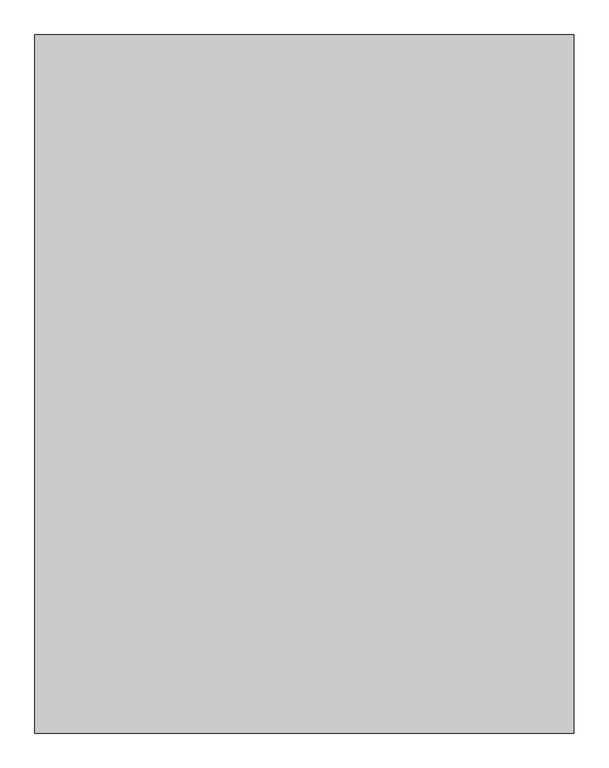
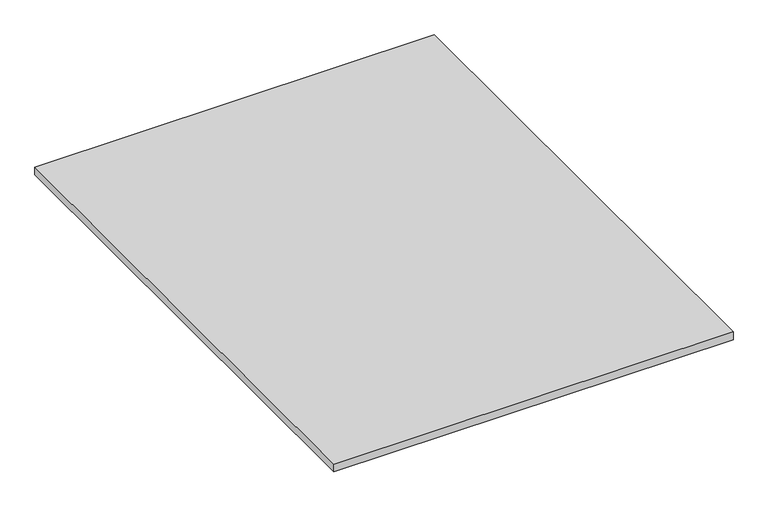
"""IFC4 building model written with IfcOpenShell, lengths in millimetres: proxy geometry, FOUNDATION^PO5_WALL HUNG TACKBOARD-PARTS SOLID."""

import ifcopenshell
import ifcopenshell.guid

model = None  # the IFC model being written
_history = None  # IfcOwnerHistory: only IFC2X3 demands one
_inside = {}  # id of a spatial element -> (the spatial element, [elements in it])
_under = {}  # id of a project, library or spatial element -> (it, [spatial elements below it])
_declared = {}  # id of a project -> (the project, [libraries it declares])
_typed = {}  # id of a type object -> (the type object, [elements of that type])
_made_of = {}  # id of a material, layer set ... -> (it, [elements and type objects made of it])


def new_model(schema):
    """Start an empty IFC model of exactly this schema.

    Asked for "IFC4X3", IfcOpenShell would pick the latest addendum, in which some entities
    have other attributes; the version numbers below select the first issue.
    IFC2X3 requires an IfcOwnerHistory on every rooted entity: one is made here for all.
    """
    global model, _history
    if schema == "IFC4X3":
        model = ifcopenshell.file(schema_version=(4, 3, 0, 0))
    else:
        model = ifcopenshell.file(schema=schema)
    _inside.clear()
    _under.clear()
    _declared.clear()
    _typed.clear()
    _made_of.clear()
    _history = None
    if model.schema == "IFC2X3":
        org = make("IfcOrganization", Name="unknown")
        user = make(
            "IfcPersonAndOrganization",
            ThePerson=make("IfcPerson", FamilyName="unknown"),
            TheOrganization=org,
        )
        app = make(
            "IfcApplication",
            ApplicationDeveloper=org,
            Version="unknown",
            ApplicationFullName="unknown",
            ApplicationIdentifier="unknown",
        )
        _history = make(
            "IfcOwnerHistory",
            OwningUser=user,
            OwningApplication=app,
            ChangeAction="ADDED",
            CreationDate=0,
        )
    return model


def make(cls, **values):
    """One entity of the class cls with the attributes given. An attribute that is None is left unset."""
    return model.create_entity(
        cls, **{name: value for name, value in values.items() if value is not None}
    )


def rooted(cls, **values):
    """An entity with a GlobalId (a new one), such as an element, a storey or a relation."""
    return make(cls, GlobalId=ifcopenshell.guid.new(), OwnerHistory=_history, **values)


def si_unit(unit_type, name, prefix=None):
    """IfcSIUnit, for example si_unit("LENGTHUNIT", "METRE", prefix="MILLI")."""
    return make("IfcSIUnit", UnitType=unit_type, Prefix=prefix, Name=name)


def assignment(units):
    """IfcUnitAssignment: the units of a project."""
    return None if units is None else make("IfcUnitAssignment", Units=units)


def point(xyz):
    """IfcCartesianPoint."""
    return None if xyz is None else make("IfcCartesianPoint", Coordinates=xyz)


def direction(xyz):
    """IfcDirection."""
    return None if xyz is None else make("IfcDirection", DirectionRatios=xyz)


def frame(location, z_axis=None, x_axis=None):
    """IfcAxis2Placement3D, a coordinate frame: its origin and axes. An axis left out is left unset."""
    return make(
        "IfcAxis2Placement3D",
        Location=point(location),
        Axis=direction(z_axis),
        RefDirection=direction(x_axis),
    )


def origin():
    """The frame at (0, 0, 0) with its axes left unset."""
    return frame((0.0, 0.0, 0.0))


def origin_with_axes():
    """The frame at (0, 0, 0) with the z axis (0, 0, 1) and the x axis (1, 0, 0) written out."""
    return frame((0.0, 0.0, 0.0), z_axis=(0.0, 0.0, 1.0), x_axis=(1.0, 0.0, 0.0))


def place(relative_to, where):
    """IfcLocalPlacement: puts the frame where relative to a parent placement (None: the world)."""
    return make(
        "IfcLocalPlacement", PlacementRelTo=relative_to, RelativePlacement=where
    )


def context(
    kind, dimensions, precision=None, world=None, true_north=None, identifier=None
):
    """IfcGeometricRepresentationContext, for example the 3D "Model" context."""
    return make(
        "IfcGeometricRepresentationContext",
        ContextIdentifier=identifier,
        ContextType=kind,
        CoordinateSpaceDimension=dimensions,
        Precision=precision,
        WorldCoordinateSystem=world,
        TrueNorth=true_north,
    )


def project(units=None, contexts=None):
    """IfcProject with its units and contexts."""
    return rooted(
        "IfcProject",
        Name="project",
        RepresentationContexts=contexts,
        UnitsInContext=assignment(units),
    )


def spatial(cls, under=None, at=None, **own):
    """A site, building, storey or space (cls), placed at a placement, below another one or the project."""
    s = rooted(cls, ObjectPlacement=at, **own)
    if under is not None:
        _under.setdefault(under.id(), (under, []))[1].append(s)
    return s


def polyline(points):
    """IfcPolyline through the points."""
    return make("IfcPolyline", Points=[point(p) for p in points])


def outline(outer, holes=None, kind="AREA"):
    """IfcArbitraryClosedProfileDef: a profile drawn as a closed curve; with holes, ...WithVoids."""
    if holes is None:
        return make("IfcArbitraryClosedProfileDef", ProfileType=kind, OuterCurve=outer)
    return make(
        "IfcArbitraryProfileDefWithVoids",
        ProfileType=kind,
        OuterCurve=outer,
        InnerCurves=holes,
    )


def extrude(swept, where, along, depth):
    """IfcExtrudedAreaSolid: the profile swept, set in the frame where, extruded along a direction by depth."""
    return make(
        "IfcExtrudedAreaSolid",
        SweptArea=swept,
        Position=where,
        ExtrudedDirection=direction(along),
        Depth=depth,
    )


def shape(context_of_items, identifier, shape_type, items):
    """IfcShapeRepresentation: the items that make up one representation, for example the "Body"."""
    return make(
        "IfcShapeRepresentation",
        ContextOfItems=context_of_items,
        RepresentationIdentifier=identifier,
        RepresentationType=shape_type,
        Items=items,
    )


def source(mapping_origin, context_of_items, identifier, shape_type, items):
    """IfcRepresentationMap: a shape defined once, which mapped items show again and again."""
    return make(
        "IfcRepresentationMap",
        MappingOrigin=mapping_origin,
        MappedRepresentation=shape(context_of_items, identifier, shape_type, items),
    )


def transform(
    local_origin,
    x_axis=None,
    y_axis=None,
    z_axis=None,
    scale=None,
    scale2=None,
    scale3=None,
    uniform=True,
):
    """IfcCartesianTransformationOperator3D, or its non-uniform kind. x_axis, y_axis, z_axis: its Axis1, 2, 3."""
    if uniform:
        return make(
            "IfcCartesianTransformationOperator3D",
            Axis1=direction(x_axis),
            Axis2=direction(y_axis),
            LocalOrigin=point(local_origin),
            Scale=scale,
            Axis3=direction(z_axis),
        )
    return make(
        "IfcCartesianTransformationOperator3DnonUniform",
        Axis1=direction(x_axis),
        Axis2=direction(y_axis),
        LocalOrigin=point(local_origin),
        Scale=scale,
        Axis3=direction(z_axis),
        Scale2=scale2,
        Scale3=scale3,
    )


def mapped(mapping_source, mapping_target):
    """IfcMappedItem: shows the shape of a source again, moved by a transform."""
    return make(
        "IfcMappedItem", MappingSource=mapping_source, MappingTarget=mapping_target
    )


def made_of(thing, what):
    """Note that an element or type object is made of a material, layer set ...; save() writes the relation."""
    if what is not None:
        _made_of.setdefault(what.id(), (what, []))[1].append(thing)
    return thing


def element(
    cls,
    number,
    at=None,
    inside=None,
    cuts=None,
    type_object=None,
    material=None,
    context=None,
    identifier="Body",
    shape_type=None,
    held_by="IfcProductDefinitionShape",
    body=None,
    shapes=None,
    **own,
):
    """One element of the class cls, such as IfcWall. Its Tag is "e" and its number.

    at: its placement. inside: the storey or other place that contains it. cuts: it is an
    opening in that element (IfcRelVoidsElement). A single representation is given by context,
    identifier, shape_type and body (its items); several are given by shapes. held_by: the class
    of the entity that holds the representations. save() writes the other relations.
    """
    e = rooted(cls, Tag="e%d" % number, ObjectPlacement=at, **own)
    if body is not None:
        shapes = [shape(context, identifier, shape_type, body)]
    if shapes is not None:
        e.Representation = make(held_by, Representations=shapes)
    if inside is not None:
        _inside.setdefault(inside.id(), (inside, []))[1].append(e)
    if cuts is not None:
        rooted(
            "IfcRelVoidsElement", RelatingBuildingElement=cuts, RelatedOpeningElement=e
        )
    if type_object is not None:
        _typed.setdefault(type_object.id(), (type_object, []))[1].append(e)
    return made_of(e, material)


def aggregate(whole, parts):
    """IfcRelAggregates: a whole, such as a stair, and the parts it consists of."""
    return rooted("IfcRelAggregates", RelatingObject=whole, RelatedObjects=parts)


def save(model, path):
    """Write the relations noted so far, then the file.

    IfcRelAggregates (storeys below a building ...), IfcRelContainedInSpatialStructure (elements
    in a storey), IfcRelDefinesByType, IfcRelAssociatesMaterial and IfcRelDeclares: one each for
    every whole, place, type object, material and project.
    """
    for whole, parts in _under.values():
        aggregate(whole, parts)
    for where, things in _inside.values():
        rooted(
            "IfcRelContainedInSpatialStructure",
            RelatedElements=things,
            RelatingStructure=where,
        )
    for kind, things in _typed.values():
        rooted("IfcRelDefinesByType", RelatedObjects=things, RelatingType=kind)
    for what, things in _made_of.values():
        rooted("IfcRelAssociatesMaterial", RelatedObjects=things, RelatingMaterial=what)
    for by, libraries in _declared.values():
        rooted("IfcRelDeclares", RelatingContext=by, RelatedDefinitions=libraries)
    model.write(path)


def generic_models_cede4d66(model_context):
    return source(origin(), model_context, "Body", "SweptSolid", [
        extrude(outline(polyline([(919.95625, 1192.2125), (919.95625, 0.0), (0.0, 0.0), (0.0, 1192.2125), (919.95625, 1192.2125)])), origin_with_axes(), (0.0, 0.0, 1.0), 19.05),
    ])


if __name__ == "__main__":
    model = new_model("IFC4")
    model_context = context("Model", 3, world=origin())
    ifc_project = project(units=[si_unit("LENGTHUNIT", "METRE", prefix="MILLI")], contexts=[model_context])
    site = spatial("IfcSite", under=ifc_project)
    building = spatial("IfcBuilding", under=site)
    placement = place(None, origin())
    generic_models_shape = generic_models_cede4d66(model_context)
    element("IfcBuildingElementProxy", 1, Name="FOUNDATION^PO5_WALL HUNG TACKBOARD-PARTS SOLID", ObjectType="FOUNDATION^PO5_WALL HUNG TACKBOARD-PARTS SOLID", at=placement, inside=building, context=model_context, shape_type="MappedRepresentation", body=[
        mapped(generic_models_shape, transform((0.0, 0.0, 0.0), x_axis=(1.0, 0.0, 0.0), y_axis=(0.0, 1.0, 0.0), z_axis=(0.0, 0.0, 1.0))),
    ])
    save(model, "model.ifc")
